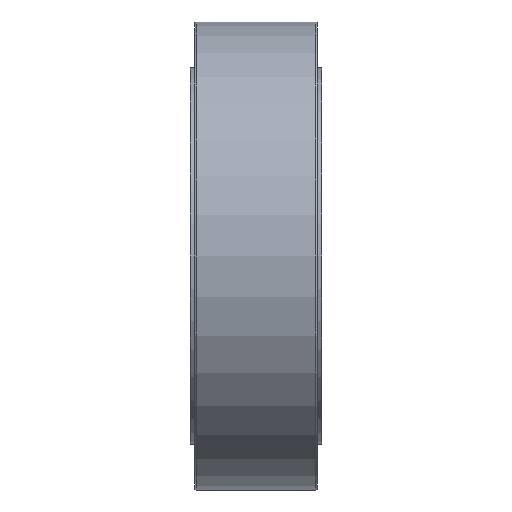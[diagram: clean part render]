
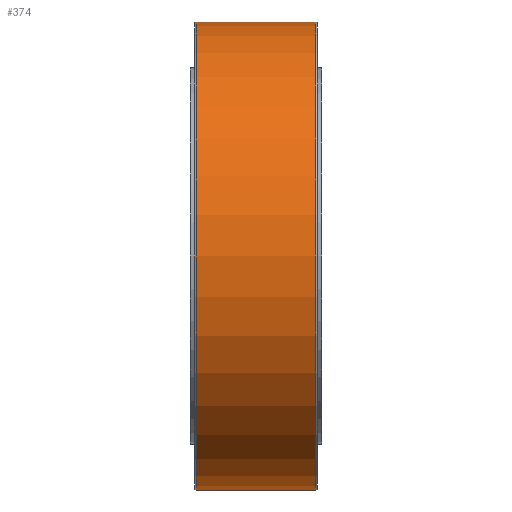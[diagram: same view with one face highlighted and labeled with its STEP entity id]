
A CAD part, front view. The second image highlights one B-rep face of the part: STEP entity #374.
In plain terms, the highlighted cylindrical face has radius 160 mm (diameter 320 mm), a partial arc.
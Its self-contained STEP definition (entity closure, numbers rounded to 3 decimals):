
#56 = CARTESIAN_POINT ( 'NONE',  ( -41., 0., 160. ) ) ;
#362 = EDGE_CURVE ( 'NONE', #2802, #2798, #3507, .T. ) ;
#372 = ORIENTED_EDGE ( 'NONE', *, *, #2883, .F. ) ;
#374 = ADVANCED_FACE ( 'NONE', ( #2929 ), #2958, .T. ) ;
#394 = ORIENTED_EDGE ( 'NONE', *, *, #362, .T. ) ;
#396 = ORIENTED_EDGE ( 'NONE', *, *, #406, .T. ) ;
#406 = EDGE_CURVE ( 'NONE', #799, #2786, #3004, .T. ) ;
#409 = ORIENTED_EDGE ( 'NONE', *, *, #3542, .T. ) ;
#415 = EDGE_LOOP ( 'NONE', ( #372, #394, #409, #396 ) ) ;
#799 = VERTEX_POINT ( 'NONE', #56 ) ;
#1516 = CARTESIAN_POINT ( 'NONE',  ( 41., 0., 160. ) ) ;
#1544 = CARTESIAN_POINT ( 'NONE',  ( -41., 0., -160. ) ) ;
#1592 = CARTESIAN_POINT ( 'NONE',  ( 41., 0., -160. ) ) ;
#1712 = DIRECTION ( 'NONE',  ( -1., 0., 0. ) ) ;
#1713 = VECTOR ( 'NONE', #1712, 1000. ) ;
#1714 = CARTESIAN_POINT ( 'NONE',  ( -41.122, 0., -160. ) ) ;
#1726 = LINE ( 'NONE', #1714, #1713 ) ;
#2317 = CARTESIAN_POINT ( 'NONE',  ( -41.122, 0., 160. ) ) ;
#2340 = LINE ( 'NONE', #2317, #2395 ) ;
#2394 = DIRECTION ( 'NONE',  ( -1., 0., 0. ) ) ;
#2395 = VECTOR ( 'NONE', #2394, 1000. ) ;
#2786 = VERTEX_POINT ( 'NONE', #1544 ) ;
#2798 = VERTEX_POINT ( 'NONE', #1516 ) ;
#2802 = VERTEX_POINT ( 'NONE', #1592 ) ;
#2883 = EDGE_CURVE ( 'NONE', #2802, #2786, #1726, .T. ) ;
#2928 = DIRECTION ( 'NONE',  ( 0., 0., 1. ) ) ;
#2929 = FACE_OUTER_BOUND ( 'NONE', #415, .T. ) ;
#2956 = AXIS2_PLACEMENT_3D ( 'NONE', #2957, #2959, #2928 ) ;
#2957 = CARTESIAN_POINT ( 'NONE',  ( -41.122, 0., 0. ) ) ;
#2958 = CYLINDRICAL_SURFACE ( 'NONE', #2956, 160. ) ;
#2959 = DIRECTION ( 'NONE',  ( -1., 0., 0. ) ) ;
#3004 = CIRCLE ( 'NONE', #3016, 160. ) ;
#3005 = CARTESIAN_POINT ( 'NONE',  ( -41., 0., 0. ) ) ;
#3007 = DIRECTION ( 'NONE',  ( 0., 0., -1. ) ) ;
#3012 = DIRECTION ( 'NONE',  ( 1., 0., 0. ) ) ;
#3016 = AXIS2_PLACEMENT_3D ( 'NONE', #3005, #3012, #3007 ) ;
#3464 = DIRECTION ( 'NONE',  ( 0., 0., 1. ) ) ;
#3491 = DIRECTION ( 'NONE',  ( -1., 0., 0. ) ) ;
#3492 = CARTESIAN_POINT ( 'NONE',  ( 41., 0., 0. ) ) ;
#3494 = AXIS2_PLACEMENT_3D ( 'NONE', #3492, #3491, #3464 ) ;
#3507 = CIRCLE ( 'NONE', #3494, 160. ) ;
#3542 = EDGE_CURVE ( 'NONE', #2798, #799, #2340, .T. ) ;
